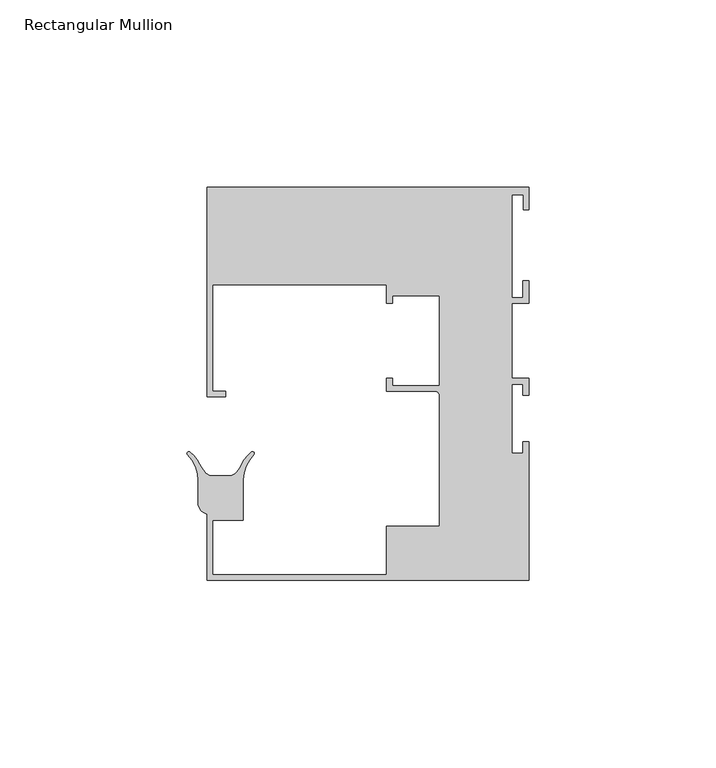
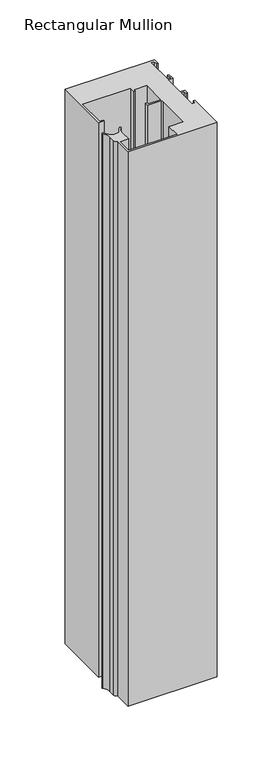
"""IFC4 building model written with IfcOpenShell, lengths in millimetres: member geometry, Rectangular Mullion : Danpal_Airpt_End-Mullion_B1."""

from ifc_helpers import new_model, si_unit, point, frame, frame_2d, origin, place, context, project, spatial, polyline, circle_curve, trimmed, segment, composite_curve, outline, extrude, source, transform, mapped, element, save


def rectangular_mullion_05272e8f(model_context):
    return source(origin(), model_context, "Body", "SweptSolid", [
        extrude(outline(composite_curve([segment(polyline([(-84.5, 44.249979), (-84.5, 15.7500001), (-81.0, 15.7500001), (-81.0, 14.2500001), (-86.0, 14.2500001), (-86.0, 70.2500001), (0.0, 70.2500001), (0.0, 64.2500001), (-1.5, 64.2500001), (-1.5, 68.2500001), (-4.5, 68.2500001), (-4.5, 40.7500001), (-1.5180937, 40.7500001), (-1.5180937, 45.2500001), (-0.0180937, 45.2500001), (-0.0180937, 39.2500001), (-4.5, 39.2500001), (-4.5, 19.25), (-0.0180922, 19.25), (-0.0180922, 14.65), (-1.5180922, 14.65), (-1.5180922, 17.65), (-4.5180922, 17.65), (-4.5180922, -0.75), (-1.5180922, -0.75), (-1.5180922, 2.25), (-0.0180922, 2.25), (-0.0180922, -34.75), (-86.0180914, -34.75), (-86.0180914, -17.0365625)]), True, "CONTINUOUS"), segment(trimmed(circle_curve(frame_2d((-85.366716, -14.1081309)), 3.0000002), [point((-86.0180914, -17.0365625))], [point((-88.3666989, -14.1183419))], False, "CARTESIAN"), True, "CONTINUOUS"), segment(polyline([(-88.3666989, -14.1183419), (-88.3666989, -8.1181379)]), True, "CONTINUOUS"), segment(trimmed(circle_curve(frame_2d((-98.3666403, -8.1523787)), 10.0), [point((-88.3666989, -8.1181379))], [point((-91.1789286, -1.1999114))], True, "CARTESIAN"), True, "CONTINUOUS"), segment(trimmed(circle_curve(frame_2d((-90.8194227, -0.8521716)), 0.5001675), [point((-91.1789286, -1.1999114))], [point((-90.4970116, -0.4697862))], False, "CARTESIAN"), True, "CONTINUOUS"), segment(trimmed(circle_curve(frame_2d((-96.9430732, -8.114934)), 9.9999998), [point((-90.4970116, -0.4697862))], [point((-87.9289412, -3.785336))], False, "CARTESIAN"), True, "CONTINUOUS"), segment(trimmed(circle_curve(frame_2d((-78.9148092, 0.544262)), 9.9999997), [point((-87.9289412, -3.785336))], [point((-86.6990305, -5.7331494))], True, "CARTESIAN"), True, "CONTINUOUS"), segment(trimmed(circle_curve(frame_2d((-84.363764, -3.8499259)), 3.0), [point((-86.6990305, -5.7331494))], [point((-84.363764, -6.8499259))], True, "CARTESIAN"), True, "CONTINUOUS"), segment(polyline([(-84.363764, -6.8499259), (-80.32512, -6.8499259)]), True, "CONTINUOUS"), segment(trimmed(circle_curve(frame_2d((-80.32512, -3.8499259)), 3.0), [point((-80.32512, -6.8499259))], [point((-77.9898528, -5.7331484))], True, "CARTESIAN"), True, "CONTINUOUS"), segment(trimmed(circle_curve(frame_2d((-85.7740768, 0.5442599)), 10.0), [point((-77.9898528, -5.7331484))], [point((-76.759944, -3.7853369))], True, "CARTESIAN"), True, "CONTINUOUS"), segment(trimmed(circle_curve(frame_2d((-67.7458114, -8.1149337)), 9.9999997), [point((-76.759944, -3.7853369))], [point((-74.1944462, -0.4719563))], False, "CARTESIAN"), True, "CONTINUOUS"), segment(trimmed(circle_curve(frame_2d((-73.8718016, -0.8543575)), 0.5003301), [point((-74.1944462, -0.4719563))], [point((-73.5120728, -1.2021009))], False, "CARTESIAN"), True, "CONTINUOUS"), segment(trimmed(circle_curve(frame_2d((-66.322244, -8.1523787)), 10.0), [point((-73.5120728, -1.2021009))], [point((-76.3180945, -7.8643287))], True, "CARTESIAN"), True, "CONTINUOUS"), segment(polyline([(-76.3180945, -7.8643287), (-76.3180945, -18.6499969), (-84.5180945, -18.6499969), (-84.5180945, -33.2499969), (-38.0180899, -33.2499969), (-38.0180899, -20.2499969), (-23.9180899, -20.2499969), (-23.9180899, 14.698377)]), True, "CONTINUOUS"), segment(trimmed(circle_curve(frame_2d((-24.969716, 14.698377)), 1.0516261), [point((-23.9180899, 14.698377))], [point((-24.969716, 15.7500031))], True, "CARTESIAN"), True, "CONTINUOUS"), segment(polyline([(-24.969716, 15.7500031), (-38.0180899, 15.7500031), (-38.0180899, 19.2500031), (-36.4180899, 19.2500031), (-36.4180899, 17.2500031), (-23.9180899, 17.2500031), (-23.9180899, 41.2500001), (-36.4, 41.2500001), (-36.4, 39.2500001), (-38.0, 39.2500001), (-38.0, 44.249979), (-84.5, 44.249979)]), True, "CONTINUOUS")], self_intersect=False)), frame((0.0, 0.0, -565.3514979), z_axis=(0.0, 0.0, 1.0), x_axis=(1.0, 0.0, 0.0)), (0.0, 0.0, 1.0), 565.3514979),
    ])


if __name__ == "__main__":
    model = new_model("IFC4")
    model_context = context("Model", 3, world=origin())
    ifc_project = project(units=[si_unit("LENGTHUNIT", "METRE", prefix="MILLI")], contexts=[model_context])
    site = spatial("IfcSite", under=ifc_project)
    building = spatial("IfcBuilding", under=site)
    placement = place(None, origin())
    rectangular_mullion_shape = rectangular_mullion_05272e8f(model_context)
    element("IfcMember", 1, ObjectType="Rectangular Mullion : Danpal_Airpt_End-Mullion_B1", at=placement, inside=building, context=model_context, shape_type="MappedRepresentation", body=[
        mapped(rectangular_mullion_shape, transform((0.0, 0.0, 0.0), x_axis=(1.0, 0.0, 0.0), y_axis=(0.0, 1.0, 0.0), z_axis=(0.0, 0.0, 1.0))),
    ])
    save(model, "model.ifc")
